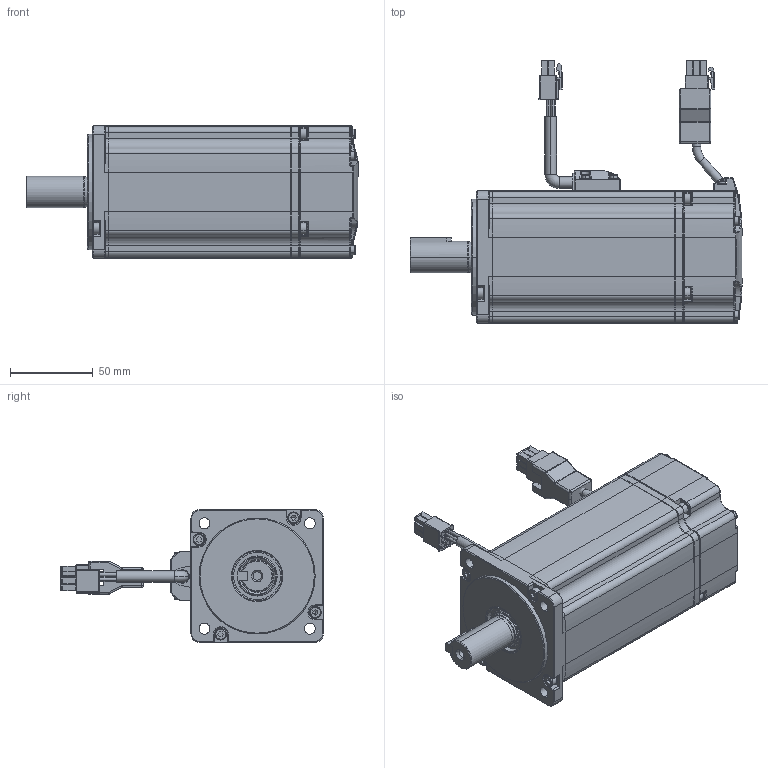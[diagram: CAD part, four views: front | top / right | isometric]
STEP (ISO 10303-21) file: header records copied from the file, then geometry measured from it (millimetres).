
FILE_DESCRIPTION (( 'STEP AP203' ), '1' );
FILE_NAME ('EM3A08A-100-A3-S（永磁交流伺服电机）.STEP', '2018-06-12T07:13:34', ( '' ), ( '' ), 'SwSTEP 2.0', 'SolidWorks 2016', '' );
FILE_SCHEMA (( 'CONFIG_CONTROL_DESIGN' ));
Length unit declared in the file: millimetre
Products named in the file (1): EM3A08A-100-A3-S（永磁交流伺服电机）
Bounding box: 200.5 x 158.7 x 80 mm (x, y, z)
Surface area: 89507.1 mm2 (no closed solid volume)
Topology: 0 solids, 54 shells, 1267 faces, 3860 edges, 2578 vertices
Faces by surface type: plane 511, cylinder 425, cone 121, torus 118, bspline 67, sphere 25
Entity records: 44290 total; most frequent: CARTESIAN_POINT 10189, DIRECTION 7316, ORIENTED_EDGE 6425, EDGE_CURVE 3833, VERTEX_POINT 2578, AXIS2_PLACEMENT_3D 2536, VECTOR 2244, LINE 2244
